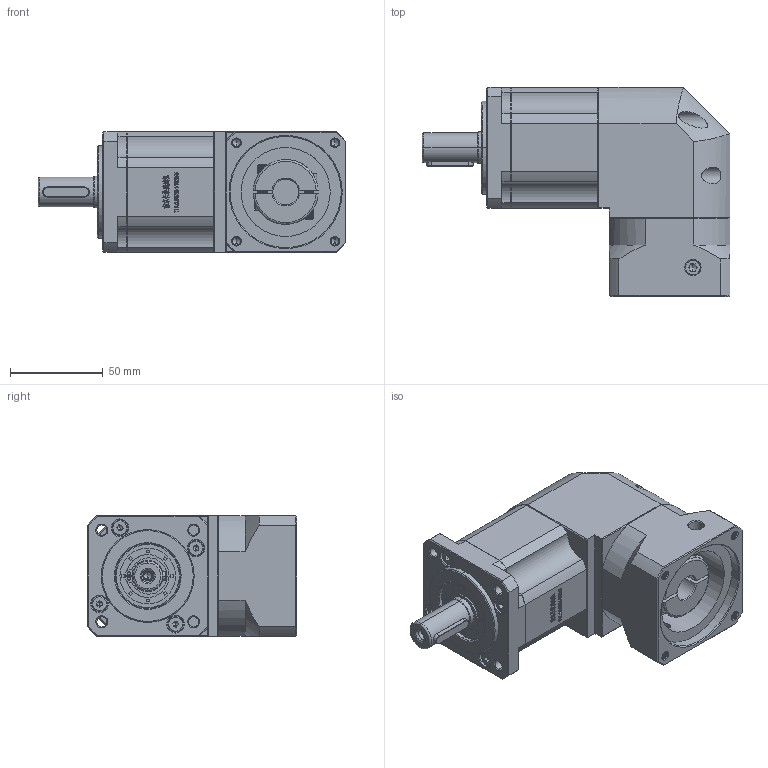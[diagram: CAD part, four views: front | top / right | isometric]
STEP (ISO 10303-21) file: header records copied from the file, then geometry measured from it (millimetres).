
FILE_DESCRIPTION (( 'STEP AP214' ), '1' );
FILE_NAME ('ZBR60-D16-L2-14-60-75-M5.STEP', '2022-04-19T09:01:29', ( '' ), ( 'Microsoft' ), 'SwSTEP 2.0', 'SolidWorks 2016', '' );
FILE_SCHEMA (( 'AUTOMOTIVE_DESIGN' ));
Length unit declared in the file: millimetre
Products named in the file (1): ZBR60-D16-L2-14-60-75-M5
Bounding box: 166 x 112.7 x 65 mm (x, y, z)
Volume: 602258.5 mm3; surface area: 83203.4 mm2
Topology: 5 solids, 5 shells, 2843 faces, 7713 edges, 5006 vertices
Faces by surface type: plane 1472, bspline 579, cylinder 432, cone 328, torus 32
Entity records: 155199 total; most frequent: CARTESIAN_POINT 56577, ORIENTED_EDGE 15366, DIRECTION 11723, EDGE_CURVE 7683, LINE 5059, VECTOR 5059, VERTEX_POINT 5006, AXIS2_PLACEMENT_3D 3332
